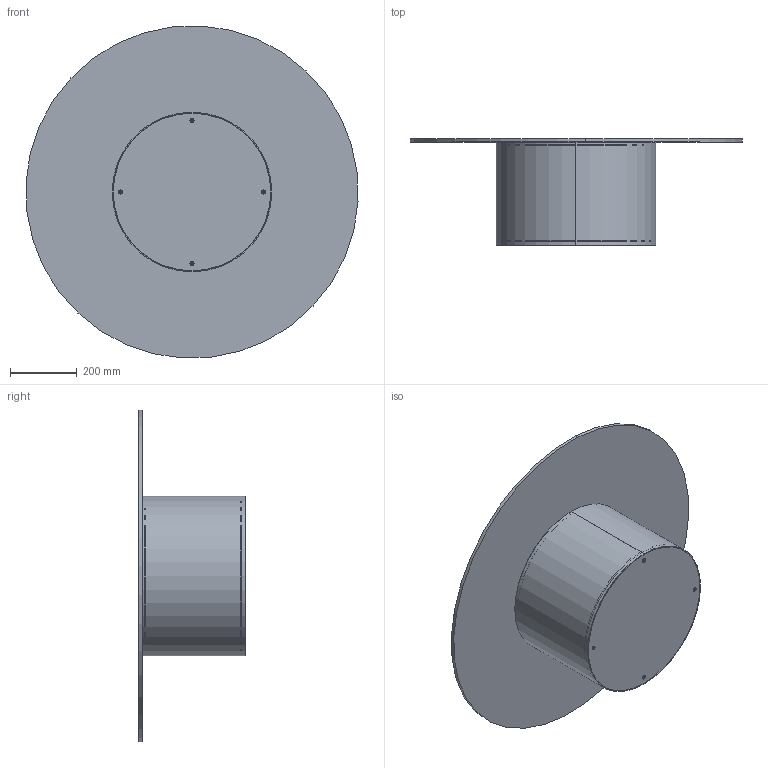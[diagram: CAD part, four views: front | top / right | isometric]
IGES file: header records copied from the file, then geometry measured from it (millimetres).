
Start section: SolidWorks IGES file using analytic representation for surfaces
Global section: file name: Y:\eforma\TECNICO\SOLIDWORKS\E-FORMA\2-TAVOLINI\CILINDRO LOW\02 parts\CL03G.IGS; native system: SolidWorks 2022; preprocessor: SolidWorks 2022; author: eforma.tech; date: 240806.121438; units: millimetre
Bounding box: 998.34 x 320 x 998.34 mm (x, y, z)
Volume: 11366742.5 mm3; surface area: 3292271.4 mm2
Topology: 12 solids, 12 shells, 231 faces, 499 edges, 288 vertices
Faces by surface type: revolution 119, plane 110, bspline 2
